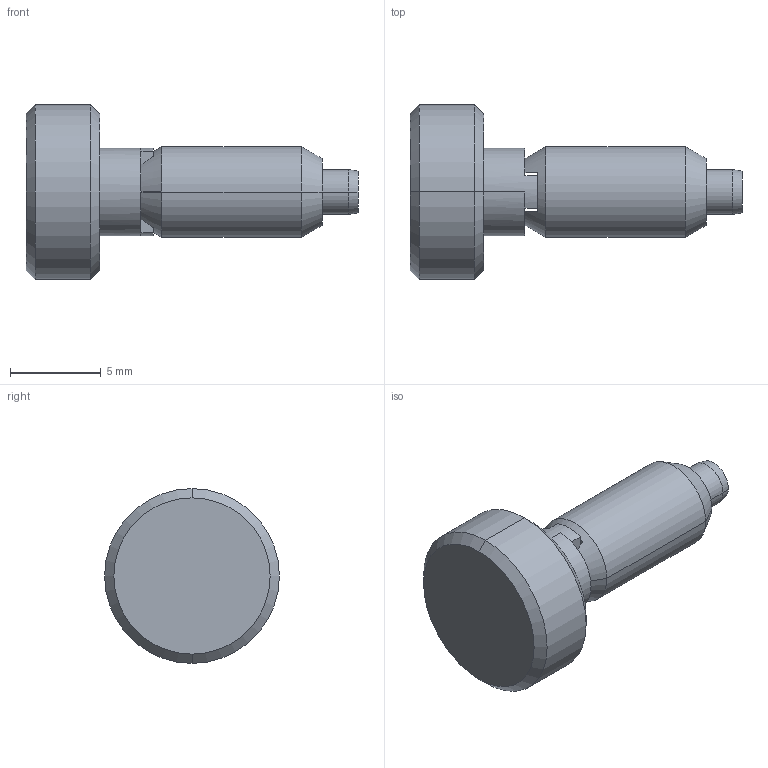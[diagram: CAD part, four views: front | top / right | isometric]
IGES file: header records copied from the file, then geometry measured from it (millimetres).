
Start section:  PTC IGES file: slm5-part.igs
Global section: file name: slm5-part.igs; native system: Pro/ENGINEER by Parametric Technology Corporation; preprocessor: 2002350; author: chant; organization: Unknown; date: 061214.155705; units: inch
Bounding box: 18.34 x 9.65 x 9.65 mm (x, y, z)
Surface area: 594.4 mm2 (no closed solid volume)
Topology: 0 solids, 0 shells, 38 faces, 260 edges, 320 vertices
Faces by surface type: revolution 25, bspline 13
